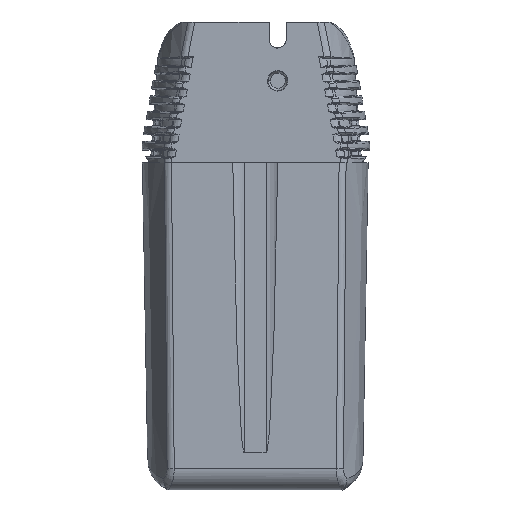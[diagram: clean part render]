
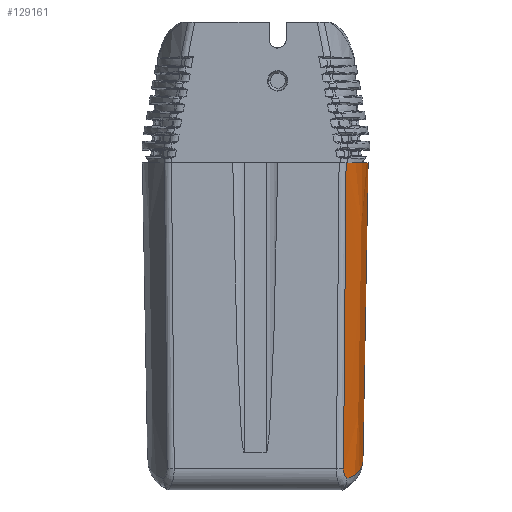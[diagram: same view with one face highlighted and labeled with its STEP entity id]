
A CAD part, front view. The second image highlights one B-rep face of the part: STEP entity #129161.
In plain terms, the highlighted conical face has half-angle 1 degrees and reference radius 26 mm.
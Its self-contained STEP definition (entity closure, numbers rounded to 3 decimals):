
#97830 = CARTESIAN_POINT ( 'NONE',  ( 21.69, -18.335, 0. ) ) ;
#99726 = CARTESIAN_POINT ( 'NONE',  ( 21.858, -15.812, -72.817 ) ) ;
#99804 = CARTESIAN_POINT ( 'NONE',  ( 21.858, -15.812, -72.817 ) ) ;
#99806 = CARTESIAN_POINT ( 'NONE',  ( 21.632, -16.191, -72.544 ) ) ;
#99808 = CARTESIAN_POINT ( 'NONE',  ( 21.445, -16.486, -72.214 ) ) ;
#99809 = CARTESIAN_POINT ( 'NONE',  ( 21.299, -16.715, -71.802 ) ) ;
#99810 = CARTESIAN_POINT ( 'NONE',  ( 21.29, -16.73, -71.774 ) ) ;
#99811 = CARTESIAN_POINT ( 'NONE',  ( 21.273, -16.757, -71.722 ) ) ;
#99812 = CARTESIAN_POINT ( 'NONE',  ( 21.248, -16.797, -71.643 ) ) ;
#99814 = CARTESIAN_POINT ( 'NONE',  ( 21.225, -16.832, -71.564 ) ) ;
#99815 = CARTESIAN_POINT ( 'NONE',  ( 21.184, -16.898, -71.404 ) ) ;
#99817 = CARTESIAN_POINT ( 'NONE',  ( 21.161, -16.935, -71.295 ) ) ;
#99818 = CARTESIAN_POINT ( 'NONE',  ( 21.106, -17.024, -70.966 ) ) ;
#99819 = CARTESIAN_POINT ( 'NONE',  ( 21.088, -17.056, -70.74 ) ) ;
#99820 = CARTESIAN_POINT ( 'NONE',  ( 21.09, -17.061, -70.508 ) ) ;
#99824 = B_SPLINE_CURVE_WITH_KNOTS ( 'NONE', 3,
 ( #99820, #99819, #99818, #99817, #99815, #99814, #99812, #99811, #99810, #99809, #99808, #99806, #99804 ),
 .UNSPECIFIED., .F., .F.,
 ( 4, 2, 2, 1, 2, 2, 4 ),
 ( 0., 0.25, 0.375, 0.437, 0.469, 0.5, 1. ),
 .UNSPECIFIED. ) ;
#99827 = CARTESIAN_POINT ( 'NONE',  ( 21.09, -17.061, -70.508 ) ) ;
#99963 = B_SPLINE_CURVE_WITH_KNOTS ( 'NONE', 3,
 ( #99976, #99974, #99972, #99970, #100075, #100074, #100072, #100070, #100068, #100066, #100064, #100062 ),
 .UNSPECIFIED., .F., .F.,
 ( 4, 2, 2, 2, 2, 4 ),
 ( 0., 0.25, 0.375, 0.437, 0.5, 1. ),
 .UNSPECIFIED. ) ;
#99970 = CARTESIAN_POINT ( 'NONE',  ( 23.764, -12.058, -71.918 ) ) ;
#99972 = CARTESIAN_POINT ( 'NONE',  ( 23.065, -13.679, -72.352 ) ) ;
#99974 = CARTESIAN_POINT ( 'NONE',  ( 22.509, -14.756, -72.603 ) ) ;
#99976 = CARTESIAN_POINT ( 'NONE',  ( 21.858, -15.812, -72.817 ) ) ;
#100062 = CARTESIAN_POINT ( 'NONE',  ( 25.577, -2.898, -68.322 ) ) ;
#100064 = CARTESIAN_POINT ( 'NONE',  ( 25.558, -5.018, -69.423 ) ) ;
#100066 = CARTESIAN_POINT ( 'NONE',  ( 25.268, -7.198, -70.342 ) ) ;
#100068 = CARTESIAN_POINT ( 'NONE',  ( 24.596, -9.63, -71.171 ) ) ;
#100070 = CARTESIAN_POINT ( 'NONE',  ( 24.517, -9.897, -71.26 ) ) ;
#100072 = CARTESIAN_POINT ( 'NONE',  ( 24.349, -10.436, -71.433 ) ) ;
#100074 = CARTESIAN_POINT ( 'NONE',  ( 24.259, -10.706, -71.517 ) ) ;
#100075 = CARTESIAN_POINT ( 'NONE',  ( 23.975, -11.516, -71.763 ) ) ;
#100078 = CARTESIAN_POINT ( 'NONE',  ( 25.577, -2.898, -68.322 ) ) ;
#100472 = FACE_OUTER_BOUND ( 'NONE', #129164, .T. ) ;
#100476 = CARTESIAN_POINT ( 'NONE',  ( 0.769, -2.898, 0. ) ) ;
#100477 = AXIS2_PLACEMENT_3D ( 'NONE', #100476, #100544, #100543 ) ;
#100478 = CONICAL_SURFACE ( 'NONE', #100477, 26., 0.017 ) ;
#100536 = DIRECTION ( 'NONE',  ( 0., -1., 0. ) ) ;
#100537 = DIRECTION ( 'NONE',  ( 0., 0., 1. ) ) ;
#100538 = CARTESIAN_POINT ( 'NONE',  ( 0.769, -2.898, 0. ) ) ;
#100539 = AXIS2_PLACEMENT_3D ( 'NONE', #100538, #100537, #100536 ) ;
#100540 = CIRCLE ( 'NONE', #100539, 26. ) ;
#100542 = CARTESIAN_POINT ( 'NONE',  ( 26.769, -2.898, 0. ) ) ;
#100543 = DIRECTION ( 'NONE',  ( 0., -1., 0. ) ) ;
#100544 = DIRECTION ( 'NONE',  ( 0., 0., 1. ) ) ;
#100633 = CARTESIAN_POINT ( 'NONE',  ( 21.09, -17.061, -70.508 ) ) ;
#100634 = CARTESIAN_POINT ( 'NONE',  ( 21.299, -17.478, -47.005 ) ) ;
#100635 = CARTESIAN_POINT ( 'NONE',  ( 21.499, -17.903, -23.503 ) ) ;
#100637 = CARTESIAN_POINT ( 'NONE',  ( 21.69, -18.335, 0. ) ) ;
#100644 = B_SPLINE_CURVE_WITH_KNOTS ( 'NONE', 3,
 ( #100637, #100635, #100634, #100633 ),
 .UNSPECIFIED., .F., .F.,
 ( 4, 4 ),
 ( 0., 1. ),
 .UNSPECIFIED. ) ;
#101011 = CARTESIAN_POINT ( 'NONE',  ( 25.577, -2.898, -68.322 ) ) ;
#101012 = CARTESIAN_POINT ( 'NONE',  ( 25.974, -2.898, -45.548 ) ) ;
#101014 = CARTESIAN_POINT ( 'NONE',  ( 26.372, -2.898, -22.774 ) ) ;
#101016 = CARTESIAN_POINT ( 'NONE',  ( 26.769, -2.898, 0. ) ) ;
#101022 = B_SPLINE_CURVE_WITH_KNOTS ( 'NONE', 3,
 ( #101016, #101014, #101012, #101011 ),
 .UNSPECIFIED., .F., .F.,
 ( 4, 4 ),
 ( 0., 1. ),
 .UNSPECIFIED. ) ;
#128828 = VERTEX_POINT ( 'NONE', #99726 ) ;
#128851 = EDGE_CURVE ( 'NONE', #128854, #128828, #99824, .T. ) ;
#128854 = VERTEX_POINT ( 'NONE', #99827 ) ;
#128991 = EDGE_CURVE ( 'NONE', #128828, #129004, #99963, .T. ) ;
#129004 = VERTEX_POINT ( 'NONE', #100078 ) ;
#129113 = ORIENTED_EDGE ( 'NONE', *, *, #129199, .T. ) ;
#129116 = ORIENTED_EDGE ( 'NONE', *, *, #128991, .T. ) ;
#129133 = ORIENTED_EDGE ( 'NONE', *, *, #129318, .F. ) ;
#129161 = ADVANCED_FACE ( 'NONE', ( #100472 ), #100478, .T. ) ;
#129164 = EDGE_LOOP ( 'NONE', ( #129133, #129169, #129113, #129316, #129116 ) ) ;
#129167 = VERTEX_POINT ( 'NONE', #100542 ) ;
#129169 = ORIENTED_EDGE ( 'NONE', *, *, #129172, .F. ) ;
#129172 = EDGE_CURVE ( 'NONE', #129198, #129167, #100540, .T. ) ;
#129198 = VERTEX_POINT ( 'NONE', #97830 ) ;
#129199 = EDGE_CURVE ( 'NONE', #129198, #128854, #100644, .T. ) ;
#129316 = ORIENTED_EDGE ( 'NONE', *, *, #128851, .T. ) ;
#129318 = EDGE_CURVE ( 'NONE', #129167, #129004, #101022, .T. ) ;
